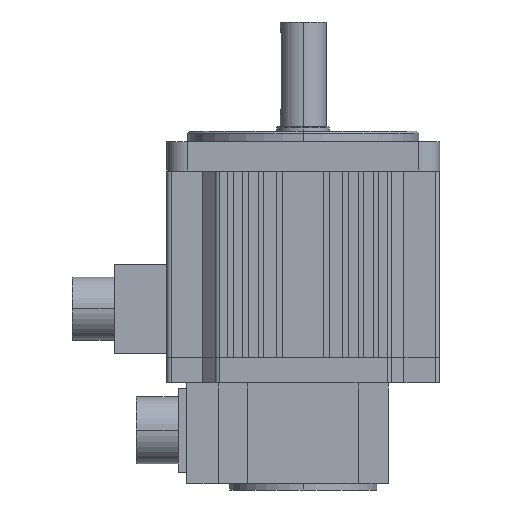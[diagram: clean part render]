
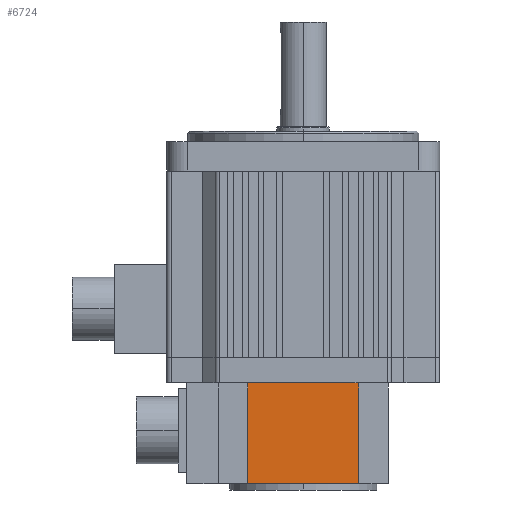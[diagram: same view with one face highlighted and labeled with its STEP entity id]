
A CAD part, left-side view. The second image highlights one B-rep face of the part: STEP entity #6724.
In plain terms, the highlighted planar face has unit normal (-1, 0, 0) as drawn and (1, 0, 0) by its records, which use the part's own axes.
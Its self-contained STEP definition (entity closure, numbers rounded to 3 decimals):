
#353 = VECTOR ( 'NONE', #917, 1000. ) ;
#917 = DIRECTION ( 'NONE',  ( 0., 1., 0. ) ) ;
#975 = LINE ( 'NONE', #3538, #353 ) ;
#1295 = VERTEX_POINT ( 'NONE', #7427 ) ;
#1524 = ORIENTED_EDGE ( 'NONE', *, *, #10245, .T. ) ;
#1959 = ORIENTED_EDGE ( 'NONE', *, *, #11353, .F. ) ;
#2065 = VERTEX_POINT ( 'NONE', #12779 ) ;
#2566 = DIRECTION ( 'NONE',  ( 0., 0., -1. ) ) ;
#3538 = CARTESIAN_POINT ( 'NONE',  ( 81., 14., 0. ) ) ;
#4770 = LINE ( 'NONE', #4949, #14732 ) ;
#4949 = CARTESIAN_POINT ( 'NONE',  ( 81., 14., -48. ) ) ;
#6353 = DIRECTION ( 'NONE',  ( 0., 0., 1. ) ) ;
#6646 = VECTOR ( 'NONE', #11951, 1000. ) ;
#6724 = ADVANCED_FACE ( 'NONE', ( #13310 ), #9132, .T. ) ;
#6856 = CARTESIAN_POINT ( 'NONE',  ( 81., 14., -48. ) ) ;
#7382 = VERTEX_POINT ( 'NONE', #6856 ) ;
#7427 = CARTESIAN_POINT ( 'NONE',  ( 81., 67., -48. ) ) ;
#7807 = VECTOR ( 'NONE', #6353, 1000. ) ;
#9075 = CARTESIAN_POINT ( 'NONE',  ( 81., 14., -48. ) ) ;
#9132 = PLANE ( 'NONE',  #13957 ) ;
#10245 = EDGE_CURVE ( 'NONE', #7382, #1295, #13575, .T. ) ;
#10618 = ORIENTED_EDGE ( 'NONE', *, *, #13733, .T. ) ;
#10968 = EDGE_LOOP ( 'NONE', ( #1959, #14075, #1524, #10618 ) ) ;
#11353 = EDGE_CURVE ( 'NONE', #15049, #2065, #975, .T. ) ;
#11709 = DIRECTION ( 'NONE',  ( 1., 0., 0. ) ) ;
#11951 = DIRECTION ( 'NONE',  ( 0., 1., 0. ) ) ;
#12040 = CARTESIAN_POINT ( 'NONE',  ( 81., 14., 0. ) ) ;
#12705 = EDGE_CURVE ( 'NONE', #7382, #15049, #4770, .T. ) ;
#12779 = CARTESIAN_POINT ( 'NONE',  ( 81., 67., 0. ) ) ;
#13102 = LINE ( 'NONE', #15345, #7807 ) ;
#13310 = FACE_OUTER_BOUND ( 'NONE', #10968, .T. ) ;
#13356 = CARTESIAN_POINT ( 'NONE',  ( 81., 14., -48. ) ) ;
#13575 = LINE ( 'NONE', #13356, #6646 ) ;
#13733 = EDGE_CURVE ( 'NONE', #1295, #2065, #13102, .T. ) ;
#13957 = AXIS2_PLACEMENT_3D ( 'NONE', #9075, #11709, #2566 ) ;
#14075 = ORIENTED_EDGE ( 'NONE', *, *, #12705, .F. ) ;
#14167 = DIRECTION ( 'NONE',  ( 0., 0., 1. ) ) ;
#14732 = VECTOR ( 'NONE', #14167, 1000. ) ;
#15049 = VERTEX_POINT ( 'NONE', #12040 ) ;
#15345 = CARTESIAN_POINT ( 'NONE',  ( 81., 67., -48. ) ) ;
